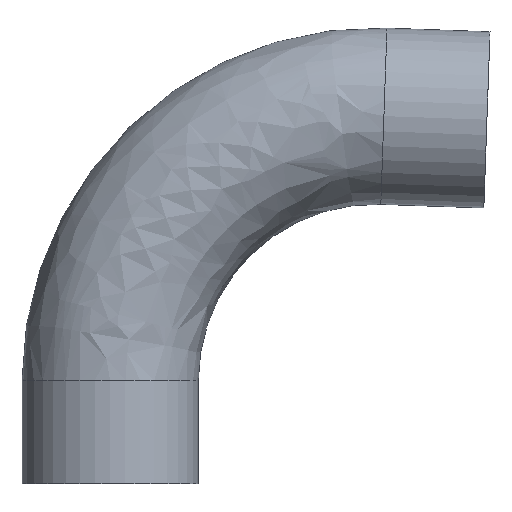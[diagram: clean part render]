
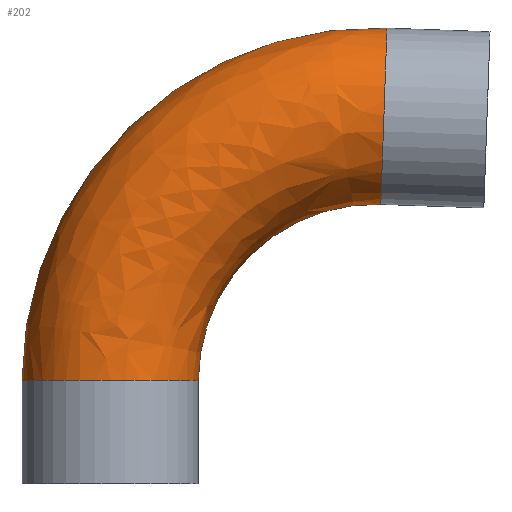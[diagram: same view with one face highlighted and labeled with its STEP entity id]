
A CAD part, top view. The second image highlights one B-rep face of the part: STEP entity #202.
In plain terms, the highlighted free-form (B-spline) face has degree [3, 3] with [4, 4] control points.
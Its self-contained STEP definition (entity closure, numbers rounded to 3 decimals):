
#19 = CIRCLE ( 'NONE', #154, 38.1 ) ;
#21 = DIRECTION ( 'NONE',  ( 0., 0., -1. ) ) ;
#52 = AXIS2_PLACEMENT_3D ( 'NONE', #156, #21, #149 ) ;
#62 = CIRCLE ( 'NONE', #174, 38.1 ) ;
#72 = CARTESIAN_POINT ( 'NONE',  ( 38.1, 44.554, 76.2 ) ) ;
#117 = CARTESIAN_POINT ( 'NONE',  ( -38.1, 44.554, 0. ) ) ;
#122 = CARTESIAN_POINT ( 'NONE',  ( 0., 44.554, 0. ) ) ;
#149 = DIRECTION ( 'NONE',  ( -1., 0., 0. ) ) ;
#152 = EDGE_CURVE ( 'NONE', #312, #420, #19, .T. ) ;
#154 = AXIS2_PLACEMENT_3D ( 'NONE', #122, #343, #375 ) ;
#156 = CARTESIAN_POINT ( 'NONE',  ( 114.3, 44.554, 0. ) ) ;
#159 = VERTEX_POINT ( 'NONE', #439 ) ;
#174 = AXIS2_PLACEMENT_3D ( 'NONE', #227, #332, #456 ) ;
#181 =( BOUNDED_SURFACE ( )  B_SPLINE_SURFACE ( 3, 3, ( 
 ( #277, #378, #251, #447 ),
 ( #302, #294, #452, #465 ),
 ( #72, #450, #428, #435 ),
 ( #415, #409, #407, #445 ) ),
 .UNSPECIFIED., .F., .F., .F. ) 
 B_SPLINE_SURFACE_WITH_KNOTS ( ( 4, 4 ),
 ( 4, 4 ),
 ( 0., 1. ),
 ( 0., 1. ),
 .UNSPECIFIED. ) 
 GEOMETRIC_REPRESENTATION_ITEM ( )  RATIONAL_B_SPLINE_SURFACE ( (
 ( 1., 0.796, 0.796, 1.),
 ( 0.333, 0.265, 0.265, 0.333),
 ( 0.333, 0.265, 0.265, 0.333),
 ( 1., 0.796, 0.796, 1.) ) ) 
 REPRESENTATION_ITEM ( '' )  SURFACE ( )  );
#188 = EDGE_LOOP ( 'NONE', ( #367, #380, #361, #406 ) ) ;
#189 = DIRECTION ( 'NONE',  ( 0., 0., -1. ) ) ;
#202 = ADVANCED_FACE ( 'NONE', ( #228 ), #181, .T. ) ;
#211 = CARTESIAN_POINT ( 'NONE',  ( 114.3, 44.554, 0. ) ) ;
#224 = VERTEX_POINT ( 'NONE', #337 ) ;
#227 = CARTESIAN_POINT ( 'NONE',  ( 118.289, 158.785, 0. ) ) ;
#228 = FACE_OUTER_BOUND ( 'NONE', #188, .T. ) ;
#235 = EDGE_CURVE ( 'NONE', #420, #224, #457, .T. ) ;
#251 = CARTESIAN_POINT ( 'NONE',  ( 27.91, 200.064, 0. ) ) ;
#277 = CARTESIAN_POINT ( 'NONE',  ( -38.1, 44.554, 0. ) ) ;
#294 = CARTESIAN_POINT ( 'NONE',  ( -38.1, 136.319, 76.2 ) ) ;
#302 = CARTESIAN_POINT ( 'NONE',  ( -38.1, 44.554, 76.2 ) ) ;
#312 = VERTEX_POINT ( 'NONE', #117 ) ;
#324 = CIRCLE ( 'NONE', #52, 152.4 ) ;
#326 = AXIS2_PLACEMENT_3D ( 'NONE', #211, #189, #434 ) ;
#332 = DIRECTION ( 'NONE',  ( -0.999, 0.035, 0. ) ) ;
#337 = CARTESIAN_POINT ( 'NONE',  ( 116.959, 120.708, 0. ) ) ;
#343 = DIRECTION ( 'NONE',  ( 0., 1., 0. ) ) ;
#361 = ORIENTED_EDGE ( 'NONE', *, *, #422, .T. ) ;
#367 = ORIENTED_EDGE ( 'NONE', *, *, #152, .T. ) ;
#375 = DIRECTION ( 'NONE',  ( -1., 0., 0. ) ) ;
#378 = CARTESIAN_POINT ( 'NONE',  ( -38.1, 136.319, 0. ) ) ;
#380 = ORIENTED_EDGE ( 'NONE', *, *, #235, .T. ) ;
#406 = ORIENTED_EDGE ( 'NONE', *, *, #455, .F. ) ;
#407 = CARTESIAN_POINT ( 'NONE',  ( 71.105, 122.309, 0. ) ) ;
#409 = CARTESIAN_POINT ( 'NONE',  ( 38.1, 90.437, 0. ) ) ;
#415 = CARTESIAN_POINT ( 'NONE',  ( 38.1, 44.554, 0. ) ) ;
#420 = VERTEX_POINT ( 'NONE', #454 ) ;
#422 = EDGE_CURVE ( 'NONE', #224, #159, #62, .T. ) ;
#428 = CARTESIAN_POINT ( 'NONE',  ( 71.105, 122.309, 76.2 ) ) ;
#434 = DIRECTION ( 'NONE',  ( -1., 0., 0. ) ) ;
#435 = CARTESIAN_POINT ( 'NONE',  ( 116.959, 120.708, 76.2 ) ) ;
#439 = CARTESIAN_POINT ( 'NONE',  ( 119.619, 196.861, 0. ) ) ;
#445 = CARTESIAN_POINT ( 'NONE',  ( 116.959, 120.708, 0. ) ) ;
#447 = CARTESIAN_POINT ( 'NONE',  ( 119.619, 196.861, 0. ) ) ;
#450 = CARTESIAN_POINT ( 'NONE',  ( 38.1, 90.437, 76.2 ) ) ;
#452 = CARTESIAN_POINT ( 'NONE',  ( 27.91, 200.064, 76.2 ) ) ;
#454 = CARTESIAN_POINT ( 'NONE',  ( 38.1, 44.554, 0. ) ) ;
#455 = EDGE_CURVE ( 'NONE', #312, #159, #324, .T. ) ;
#456 = DIRECTION ( 'NONE',  ( 0.035, 0.999, 0. ) ) ;
#457 = CIRCLE ( 'NONE', #326, 76.2 ) ;
#465 = CARTESIAN_POINT ( 'NONE',  ( 119.619, 196.861, 76.2 ) ) ;
